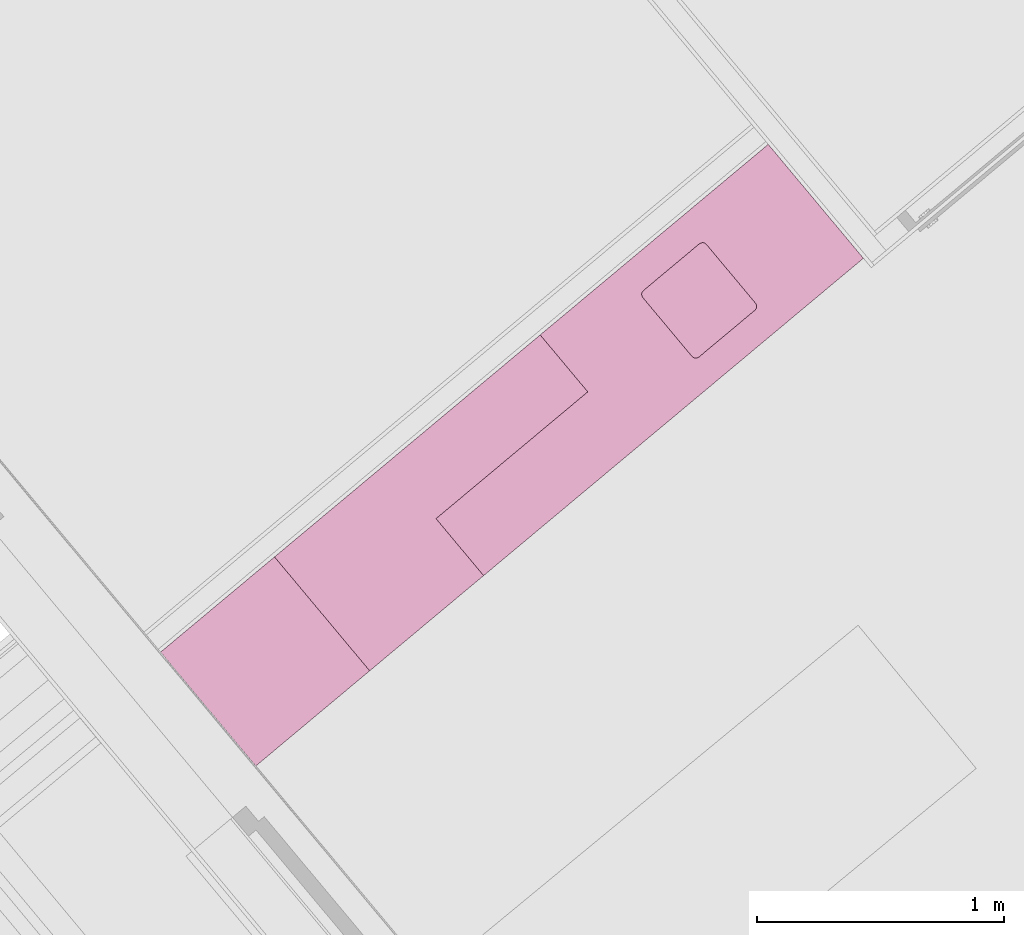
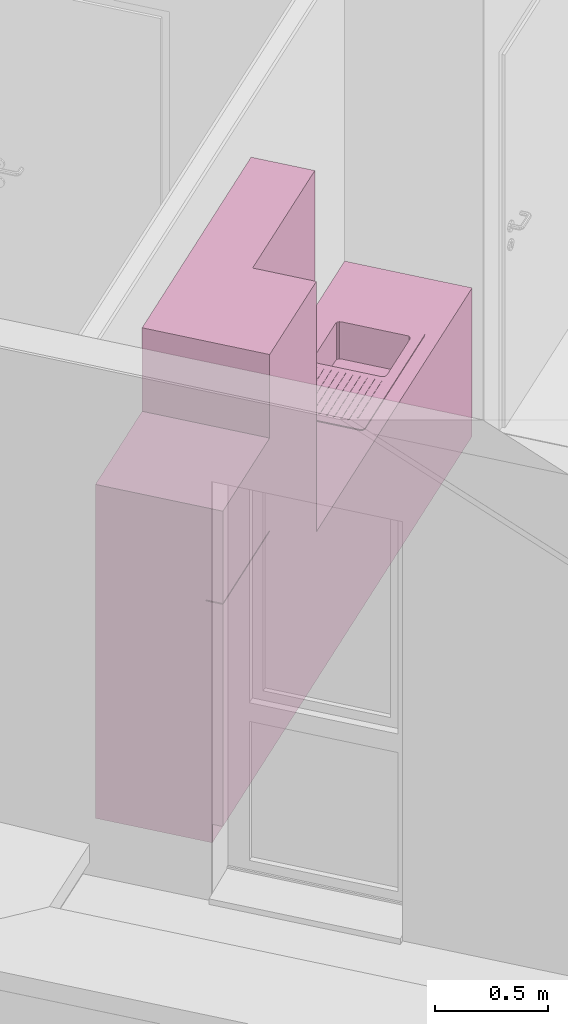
# One storey, part 56 of 58: 1 furniture element.
"""IFC4 building model written with IfcOpenShell, lengths in metres."""

from ifc_helpers import new_model, entity, si_unit, converted_unit, derived_unit, direction, frame, origin_with_axes, place, context, subcontext, project, spatial, polygons, source, transform, mapped, type_object, element, save


model = new_model("IFC4")

# Units and contexts
model_context = context("Model", 3, precision=1e-05, world=origin_with_axes(), true_north=direction((0.0, 1.0)))
body_context = subcontext(model_context, "Body", "Model", "MODEL_VIEW")
ifc_project = project(units=[si_unit("LENGTHUNIT", "METRE"), si_unit("AREAUNIT", "SQUARE_METRE"), si_unit("VOLUMEUNIT", "CUBIC_METRE"), converted_unit("PLANEANGLEUNIT", "DEGREE", entity("IfcPlaneAngleMeasure", 0.0174532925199), si_unit("PLANEANGLEUNIT", "RADIAN"), dimensions=[0, 0, 0, 0, 0, 0, 0]), converted_unit("TIMEUNIT", "Year", entity("IfcTimeMeasure", 31556926.0), si_unit("TIMEUNIT", "SECOND"), dimensions=[0, 0, 1, 0, 0, 0, 0]), si_unit("MASSUNIT", "GRAM", prefix="KILO"), si_unit("THERMODYNAMICTEMPERATUREUNIT", "DEGREE_CELSIUS"), si_unit("LUMINOUSINTENSITYUNIT", "LUMEN"), si_unit("ENERGYUNIT", "JOULE", prefix="MEGA"), derived_unit("THERMALCONDUCTANCEUNIT", [(si_unit("POWERUNIT", "WATT"), 1), (si_unit("LENGTHUNIT", "METRE"), -1), (si_unit("THERMODYNAMICTEMPERATUREUNIT", "KELVIN"), -1)]), derived_unit("SPECIFICHEATCAPACITYUNIT", [(si_unit("ENERGYUNIT", "JOULE"), 1), (si_unit("MASSUNIT", "GRAM", prefix="KILO"), -1), (si_unit("THERMODYNAMICTEMPERATUREUNIT", "KELVIN"), -1)]), derived_unit("MASSDENSITYUNIT", [(si_unit("MASSUNIT", "GRAM", prefix="KILO"), 1), (si_unit("VOLUMEUNIT", "CUBIC_METRE"), -1)])], contexts=[model_context])

# Site, building, storey
site_placement = place(None, frame((-0.00153261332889, -0.00661245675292, 0.0), z_axis=(0.0, 0.0, 1.0), x_axis=(1.0, 0.0, 0.0)))
site = spatial("IfcSite", under=ifc_project, at=site_placement, Name="Site", CompositionType="ELEMENT")
building_placement = place(site_placement, origin_with_axes())
building = spatial("IfcBuilding", under=site, at=building_placement, Name="Building", CompositionType="ELEMENT")
storey_placement = place(building_placement, frame((0.0, 0.0, 5.7), z_axis=(0.0, 0.0, 1.0), x_axis=(1.0, 0.0, 0.0)))
storey = spatial("IfcBuildingStorey", under=building, at=storey_placement, Name="DG1", CompositionType="ELEMENT", Elevation=5.7)

# Furniture
furniture_type = type_object("IfcFurnitureType", Name="Konzeptküche 26", AssemblyPlace="NOTDEFINED", PredefinedType="NOTDEFINED")
shared_shape = source(origin_with_axes(), body_context, "Body", "Tessellation", [
    polygons([(-0.968323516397, 0.0, 0.0), (-0.968323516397, 0.0, 0.1), (-2.96857705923, 0.0, 0.1), (-2.96857705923, 0.0, 0.0), (-0.968323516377, 0.55, 0.0), (-0.968323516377, 0.55, 0.1), (-2.96857705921, 0.550000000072, 0.1), (-2.96857705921, 0.550000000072, 0.0)], [[[1, 2, 3, 4]], [[5, 6, 2, 1]], [[2, 6, 7, 3]], [[4, 3, 7, 8]], [[1, 4, 8, 5]], [[8, 7, 6, 5]]], closed=True),
    polygons([(-0.968323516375, 0.6, 0.85), (-0.968323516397, 0.0, 0.85), (-2.96857705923, 0.0, 0.85), (-2.96857705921, 0.600000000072, 0.85), (-1.79253770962, 0.0550000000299, 0.85), (-1.7925377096, 0.50500000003, 0.85), (-2.5425377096, 0.505000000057, 0.85), (-2.54253770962, 0.0550000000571, 0.85), (-0.968323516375, 0.6, 0.9), (-0.968323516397, 0.0, 0.9), (-2.96857705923, 0.0, 0.9), (-2.96857705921, 0.600000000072, 0.9), (-1.7925377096, 0.50500000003, 0.9), (-1.79253770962, 0.0550000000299, 0.9), (-2.5425377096, 0.505000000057, 0.9), (-2.54253770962, 0.0550000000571, 0.9)], [[[1, 2, 3, 4], [5, 6, 7, 8]], [[2, 1, 9, 10]], [[3, 2, 10, 11]], [[4, 3, 11, 12]], [[1, 4, 12, 9]], [[13, 6, 5, 14]], [[15, 7, 6, 13]], [[16, 8, 7, 15]], [[14, 5, 8, 16]], [[11, 10, 9, 12], [14, 16, 15, 13]]], closed=True),
    polygons([(-0.968323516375, 0.6, 0.1), (-0.968323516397, 0.0, 0.1), (-2.96857705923, 0.0, 0.1), (-2.96857705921, 0.600000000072, 0.1), (-1.79253770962, 0.0550000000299, 0.1), (-1.7925377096, 0.50500000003, 0.1), (-2.5425377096, 0.505000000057, 0.1), (-2.54253770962, 0.0550000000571, 0.1), (-0.968323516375, 0.6, 0.85), (-0.968323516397, 0.0, 0.85), (-2.96857705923, 0.0, 0.85), (-2.96857705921, 0.600000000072, 0.85), (-1.7925377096, 0.50500000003, 0.85), (-1.79253770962, 0.0550000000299, 0.85), (-2.5425377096, 0.505000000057, 0.85), (-2.54253770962, 0.0550000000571, 0.85)], [[[1, 2, 3, 4], [5, 6, 7, 8]], [[2, 1, 9, 10]], [[3, 2, 10, 11]], [[4, 3, 11, 12]], [[1, 4, 12, 9]], [[13, 6, 5, 14]], [[15, 7, 6, 13]], [[16, 8, 7, 15]], [[14, 5, 8, 16]], [[11, 10, 9, 12], [14, 16, 15, 13]]], closed=True),
    polygons([(-0.968323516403, 0.0, 1.5), (-0.968323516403, 0.0, 2.25), (-1.76753770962, 0.0, 2.25), (-1.76753770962, 0.0, 1.5), (-0.968323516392, 0.3, 1.5), (-0.968323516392, 0.3, 2.25), (-1.76753770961, 0.300000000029, 2.25), (-1.76753770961, 0.300000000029, 1.5)], [[[1, 2, 3, 4]], [[5, 6, 2, 1]], [[2, 6, 7, 3]], [[4, 3, 7, 8]], [[1, 4, 8, 5]], [[8, 7, 6, 5]]], closed=True),
    polygons([(-0.368323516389, 0.519999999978, 0.0), (-0.368323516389, 0.519999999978, 0.1), (-0.368323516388, 0.549999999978, 0.1), (-0.368323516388, 0.549999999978, 0.0), (0.231676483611, 0.519999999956, 0.0), (0.231676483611, 0.519999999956, 0.1), (0.231676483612, 0.549999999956, 0.1), (0.231676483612, 0.549999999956, 0.0)], [[[1, 2, 3, 4]], [[5, 6, 2, 1]], [[2, 6, 7, 3]], [[4, 3, 7, 8]], [[1, 4, 8, 5]], [[8, 7, 6, 5]]], closed=True),
    polygons([(-0.368323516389, 0.519999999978, 0.0), (-0.368323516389, 0.519999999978, 1.8), (0.231676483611, 0.519999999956, 1.8), (0.231676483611, 0.519999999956, 0.0), (-0.368323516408, 0.0, 0.0), (-0.368323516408, 0.0, 1.8), (0.231676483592, 0.0, 1.8), (0.231676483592, 0.0, 0.0)], [[[1, 2, 3, 4]], [[5, 6, 2, 1]], [[2, 6, 7, 3]], [[4, 3, 7, 8]], [[1, 4, 8, 5]], [[8, 7, 6, 5]]], closed=True),
    polygons([(-0.368323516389, 0.519899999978, 0.1), (-0.368323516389, 0.519899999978, 1.2975), (-0.368323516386, 0.599999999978, 1.2975), (-0.368323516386, 0.599999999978, 0.1), (0.231676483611, 0.519899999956, 0.1), (0.231676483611, 0.519899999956, 1.2975), (0.231676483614, 0.599999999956, 1.2975), (0.231676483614, 0.599999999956, 0.1)], [[[1, 2, 3, 4]], [[5, 6, 2, 1]], [[2, 6, 7, 3]], [[4, 3, 7, 8]], [[1, 4, 8, 5]], [[8, 7, 6, 5]]], closed=True),
    polygons([(-0.368323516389, 0.519899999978, 1.3025), (-0.368323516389, 0.519899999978, 1.8), (-0.368323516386, 0.599999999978, 1.8), (-0.368323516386, 0.599999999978, 1.3025), (0.231676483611, 0.519899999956, 1.3025), (0.231676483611, 0.519899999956, 1.8), (0.231676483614, 0.599999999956, 1.8), (0.231676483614, 0.599999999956, 1.3025)], [[[1, 2, 3, 4]], [[5, 6, 2, 1]], [[2, 6, 7, 3]], [[4, 3, 7, 8]], [[1, 4, 8, 5]], [[8, 7, 6, 5]]], closed=True),
    polygons([(-2.4975377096, 0.480000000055, 0.705), (-2.4975377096, 0.480000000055, 0.9), (-2.2025377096, 0.480000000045, 0.9), (-2.2025377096, 0.480000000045, 0.705), (-2.50519137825, 0.478477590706, 0.705), (-2.50519137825, 0.478477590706, 0.9), (-2.19488404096, 0.478477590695, 0.9), (-2.19488404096, 0.478477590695, 0.705), (-2.18839557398, 0.474142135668, 0.705), (-2.18406011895, 0.467653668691, 0.705), (-2.18253770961, 0.460000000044, 0.705), (-2.18253770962, 0.150000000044, 0.705), (-2.18406011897, 0.142346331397, 0.705), (-2.18839557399, 0.13585786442, 0.705), (-2.19488404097, 0.131522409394, 0.705), (-2.20253770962, 0.130000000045, 0.705), (-2.49753770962, 0.130000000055, 0.705), (-2.50519137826, 0.131522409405, 0.705), (-2.51167984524, 0.135857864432, 0.705), (-2.51601530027, 0.142346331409, 0.705), (-2.51753770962, 0.150000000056, 0.705), (-2.51753770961, 0.460000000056, 0.705), (-2.51601530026, 0.467653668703, 0.705), (-2.51167984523, 0.47414213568, 0.705), (-2.51167984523, 0.47414213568, 0.9), (-2.18839557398, 0.474142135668, 0.9), (-2.18406011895, 0.467653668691, 0.9), (-2.18253770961, 0.460000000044, 0.9), (-2.18253770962, 0.150000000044, 0.9), (-2.18406011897, 0.142346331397, 0.9), (-2.18839557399, 0.13585786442, 0.9), (-2.19488404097, 0.131522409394, 0.9), (-2.20253770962, 0.130000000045, 0.9), (-2.49753770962, 0.130000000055, 0.9), (-2.50519137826, 0.131522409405, 0.9), (-2.51167984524, 0.135857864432, 0.9), (-2.51601530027, 0.142346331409, 0.9), (-2.51753770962, 0.150000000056, 0.9), (-2.51753770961, 0.460000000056, 0.9), (-2.51601530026, 0.467653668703, 0.9)], [[[1, 2, 3, 4]], [[5, 6, 2, 1]], [[4, 3, 7, 8]], [[1, 4, 8, 9, 10, 11, 12, 13, 14, 15, 16, 17, 18, 19, 20, 21, 22, 23, 24, 5]], [[24, 25, 6, 5]], [[8, 7, 26, 9]], [[9, 26, 27, 10]], [[10, 27, 28, 11]], [[11, 28, 29, 12]], [[12, 29, 30, 13]], [[13, 30, 31, 14]], [[14, 31, 32, 15]], [[15, 32, 33, 16]], [[16, 33, 34, 17]], [[17, 34, 35, 18]], [[18, 35, 36, 19]], [[19, 36, 37, 20]], [[20, 37, 38, 21]], [[21, 38, 39, 22]], [[22, 39, 40, 23]], [[23, 40, 25, 24]]], closed=False),
    polygons([(-2.5475377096, 0.530000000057, 0.9), (-2.5475377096, 0.530000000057, 0.905), (-1.7875377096, 0.53000000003, 0.905), (-1.7875377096, 0.53000000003, 0.9), (-2.55519137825, 0.528477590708, 0.9), (-2.55519137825, 0.528477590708, 0.905), (-2.56167984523, 0.524142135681, 0.905), (-2.56601530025, 0.517653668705, 0.905), (-2.5675377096, 0.510000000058, 0.905), (-2.56753770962, 0.050000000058, 0.905), (-2.56601530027, 0.0423463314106, 0.905), (-2.56167984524, 0.035857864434, 0.905), (-2.55519137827, 0.0315224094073, 0.905), (-2.54753770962, 0.0300000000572, 0.905), (-1.78753770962, 0.0300000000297, 0.905), (-1.77988404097, 0.0315224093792, 0.905), (-1.773395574, 0.0358578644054, 0.905), (-1.76906011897, 0.0423463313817, 0.905), (-1.76753770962, 0.050000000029, 0.905), (-1.7675377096, 0.510000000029, 0.905), (-1.76906011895, 0.517653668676, 0.905), (-1.77339557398, 0.524142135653, 0.905), (-1.77988404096, 0.52847759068, 0.905), (-2.4975377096, 0.480000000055, 0.905), (-2.2025377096, 0.480000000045, 0.905), (-2.19488404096, 0.478477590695, 0.905), (-2.18839557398, 0.474142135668, 0.905), (-2.18406011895, 0.467653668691, 0.905), (-2.18253770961, 0.460000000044, 0.905), (-2.18253770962, 0.150000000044, 0.905), (-2.18406011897, 0.142346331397, 0.905), (-2.18839557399, 0.13585786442, 0.905), (-2.19488404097, 0.131522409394, 0.905), (-2.20253770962, 0.130000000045, 0.905), (-2.49753770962, 0.130000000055, 0.905), (-2.50519137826, 0.131522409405, 0.905), (-2.51167984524, 0.135857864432, 0.905), (-2.51601530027, 0.142346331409, 0.905), (-2.51753770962, 0.150000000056, 0.905), (-2.51753770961, 0.460000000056, 0.905), (-2.51601530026, 0.467653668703, 0.905), (-2.51167984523, 0.47414213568, 0.905), (-2.50519137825, 0.478477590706, 0.905), (-1.77988404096, 0.52847759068, 0.9), (-1.77339557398, 0.524142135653, 0.9), (-1.76906011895, 0.517653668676, 0.9), (-1.7675377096, 0.510000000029, 0.9), (-1.76753770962, 0.050000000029, 0.9), (-1.76906011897, 0.0423463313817, 0.9), (-1.773395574, 0.0358578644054, 0.9), (-1.77988404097, 0.0315224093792, 0.9), (-1.78753770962, 0.0300000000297, 0.9), (-2.54753770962, 0.0300000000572, 0.9), (-2.55519137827, 0.0315224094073, 0.9), (-2.56167984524, 0.035857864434, 0.9), (-2.56601530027, 0.0423463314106, 0.9), (-2.56753770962, 0.050000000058, 0.9), (-2.5675377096, 0.510000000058, 0.9), (-2.56601530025, 0.517653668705, 0.9), (-2.56167984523, 0.524142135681, 0.9), (-2.4975377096, 0.480000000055, 0.9), (-2.50519137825, 0.478477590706, 0.9), (-2.51167984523, 0.47414213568, 0.9), (-2.51601530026, 0.467653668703, 0.9), (-2.51753770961, 0.460000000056, 0.9), (-2.51753770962, 0.150000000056, 0.9), (-2.51601530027, 0.142346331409, 0.9), (-2.51167984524, 0.135857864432, 0.9), (-2.50519137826, 0.131522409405, 0.9), (-2.49753770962, 0.130000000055, 0.9), (-2.20253770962, 0.130000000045, 0.9), (-2.19488404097, 0.131522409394, 0.9), (-2.18839557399, 0.13585786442, 0.9), (-2.18406011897, 0.142346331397, 0.9), (-2.18253770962, 0.150000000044, 0.9), (-2.18253770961, 0.460000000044, 0.9), (-2.18406011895, 0.467653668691, 0.9), (-2.18839557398, 0.474142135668, 0.9), (-2.19488404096, 0.478477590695, 0.9), (-2.2025377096, 0.480000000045, 0.9)], [[[1, 2, 3, 4]], [[5, 6, 2, 1]], [[2, 6, 7, 8, 9, 10, 11, 12, 13, 14, 15, 16, 17, 18, 19, 20, 21, 22, 23, 3], [24, 25, 26, 27, 28, 29, 30, 31, 32, 33, 34, 35, 36, 37, 38, 39, 40, 41, 42, 43]], [[4, 3, 23, 44]], [[1, 4, 44, 45, 46, 47, 48, 49, 50, 51, 52, 53, 54, 55, 56, 57, 58, 59, 60, 5], [61, 62, 63, 64, 65, 66, 67, 68, 69, 70, 71, 72, 73, 74, 75, 76, 77, 78, 79, 80]], [[60, 7, 6, 5]], [[59, 8, 7, 60]], [[58, 9, 8, 59]], [[57, 10, 9, 58]], [[56, 11, 10, 57]], [[55, 12, 11, 56]], [[54, 13, 12, 55]], [[53, 14, 13, 54]], [[52, 15, 14, 53]], [[51, 16, 15, 52]], [[50, 17, 16, 51]], [[49, 18, 17, 50]], [[48, 19, 18, 49]], [[47, 20, 19, 48]], [[46, 21, 20, 47]], [[45, 22, 21, 46]], [[44, 23, 22, 45]], [[80, 25, 24, 61]], [[79, 26, 25, 80]], [[78, 27, 26, 79]], [[77, 28, 27, 78]], [[76, 29, 28, 77]], [[75, 30, 29, 76]], [[74, 31, 30, 75]], [[73, 32, 31, 74]], [[72, 33, 32, 73]], [[71, 34, 33, 72]], [[70, 35, 34, 71]], [[69, 36, 35, 70]], [[68, 37, 36, 69]], [[67, 38, 37, 68]], [[66, 39, 38, 67]], [[65, 40, 39, 66]], [[64, 41, 40, 65]], [[63, 42, 41, 64]], [[62, 43, 42, 63]], [[61, 24, 43, 62]]], closed=True),
    polygons([(-2.1525377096, 0.475000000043, 0.905), (-2.1525377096, 0.475000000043, 0.907), (-1.8475377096, 0.475000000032, 0.907), (-1.8475377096, 0.475000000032, 0.905), (-2.1525377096, 0.470000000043, 0.905), (-2.1525377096, 0.470000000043, 0.907), (-1.8475377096, 0.470000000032, 0.907), (-1.8475377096, 0.470000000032, 0.905)], [[[1, 2, 3, 4]], [[5, 6, 2, 1]], [[2, 6, 7, 3]], [[4, 3, 7, 8]], [[1, 4, 8, 5]], [[8, 7, 6, 5]]], closed=True),
    polygons([(-2.15253770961, 0.441000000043, 0.905), (-2.15253770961, 0.441000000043, 0.907), (-1.81753770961, 0.441000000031, 0.907), (-1.81753770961, 0.441000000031, 0.905), (-2.15253770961, 0.436000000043, 0.905), (-2.15253770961, 0.436000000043, 0.907), (-1.81753770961, 0.436000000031, 0.907), (-1.81753770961, 0.436000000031, 0.905)], [[[1, 2, 3, 4]], [[5, 6, 2, 1]], [[2, 6, 7, 3]], [[4, 3, 7, 8]], [[1, 4, 8, 5]], [[8, 7, 6, 5]]], closed=True),
    polygons([(-2.15253770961, 0.407000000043, 0.905), (-2.15253770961, 0.407000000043, 0.907), (-1.81753770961, 0.407000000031, 0.907), (-1.81753770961, 0.407000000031, 0.905), (-2.15253770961, 0.402000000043, 0.905), (-2.15253770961, 0.402000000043, 0.907), (-1.81753770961, 0.402000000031, 0.907), (-1.81753770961, 0.402000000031, 0.905)], [[[1, 2, 3, 4]], [[5, 6, 2, 1]], [[2, 6, 7, 3]], [[4, 3, 7, 8]], [[1, 4, 8, 5]], [[8, 7, 6, 5]]], closed=True),
    polygons([(-2.15253770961, 0.373000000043, 0.905), (-2.15253770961, 0.373000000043, 0.907), (-1.81753770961, 0.373000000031, 0.907), (-1.81753770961, 0.373000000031, 0.905), (-2.15253770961, 0.368000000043, 0.905), (-2.15253770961, 0.368000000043, 0.907), (-1.81753770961, 0.368000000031, 0.907), (-1.81753770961, 0.368000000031, 0.905)], [[[1, 2, 3, 4]], [[5, 6, 2, 1]], [[2, 6, 7, 3]], [[4, 3, 7, 8]], [[1, 4, 8, 5]], [[8, 7, 6, 5]]], closed=True),
    polygons([(-2.15253770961, 0.339000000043, 0.905), (-2.15253770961, 0.339000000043, 0.907), (-1.81753770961, 0.339000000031, 0.907), (-1.81753770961, 0.339000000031, 0.905), (-2.15253770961, 0.334000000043, 0.905), (-2.15253770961, 0.334000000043, 0.907), (-1.81753770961, 0.334000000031, 0.907), (-1.81753770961, 0.334000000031, 0.905)], [[[1, 2, 3, 4]], [[5, 6, 2, 1]], [[2, 6, 7, 3]], [[4, 3, 7, 8]], [[1, 4, 8, 5]], [[8, 7, 6, 5]]], closed=True),
    polygons([(-2.15253770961, 0.305000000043, 0.905), (-2.15253770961, 0.305000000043, 0.907), (-1.81753770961, 0.305000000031, 0.907), (-1.81753770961, 0.305000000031, 0.905), (-2.15253770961, 0.300000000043, 0.905), (-2.15253770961, 0.300000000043, 0.907), (-1.81753770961, 0.300000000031, 0.907), (-1.81753770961, 0.300000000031, 0.905)], [[[1, 2, 3, 4]], [[5, 6, 2, 1]], [[2, 6, 7, 3]], [[4, 3, 7, 8]], [[1, 4, 8, 5]], [[8, 7, 6, 5]]], closed=True),
    polygons([(-2.15253770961, 0.271000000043, 0.905), (-2.15253770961, 0.271000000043, 0.907), (-1.81753770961, 0.271000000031, 0.907), (-1.81753770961, 0.271000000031, 0.905), (-2.15253770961, 0.266000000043, 0.905), (-2.15253770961, 0.266000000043, 0.907), (-1.81753770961, 0.266000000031, 0.907), (-1.81753770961, 0.266000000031, 0.905)], [[[1, 2, 3, 4]], [[5, 6, 2, 1]], [[2, 6, 7, 3]], [[4, 3, 7, 8]], [[1, 4, 8, 5]], [[8, 7, 6, 5]]], closed=True),
    polygons([(-2.15253770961, 0.237000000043, 0.905), (-2.15253770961, 0.237000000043, 0.907), (-1.81753770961, 0.237000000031, 0.907), (-1.81753770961, 0.237000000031, 0.905), (-2.15253770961, 0.232000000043, 0.905), (-2.15253770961, 0.232000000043, 0.907), (-1.81753770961, 0.232000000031, 0.907), (-1.81753770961, 0.232000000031, 0.905)], [[[1, 2, 3, 4]], [[5, 6, 2, 1]], [[2, 6, 7, 3]], [[4, 3, 7, 8]], [[1, 4, 8, 5]], [[8, 7, 6, 5]]], closed=True),
    polygons([(-2.15253770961, 0.203000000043, 0.905), (-2.15253770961, 0.203000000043, 0.907), (-1.81753770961, 0.203000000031, 0.907), (-1.81753770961, 0.203000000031, 0.905), (-2.15253770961, 0.198000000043, 0.905), (-2.15253770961, 0.198000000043, 0.907), (-1.81753770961, 0.198000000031, 0.907), (-1.81753770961, 0.198000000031, 0.905)], [[[1, 2, 3, 4]], [[5, 6, 2, 1]], [[2, 6, 7, 3]], [[4, 3, 7, 8]], [[1, 4, 8, 5]], [[8, 7, 6, 5]]], closed=True),
    polygons([(-2.15253770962, 0.169000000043, 0.905), (-2.15253770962, 0.169000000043, 0.907), (-1.81753770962, 0.169000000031, 0.907), (-1.81753770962, 0.169000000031, 0.905), (-2.15253770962, 0.164000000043, 0.905), (-2.15253770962, 0.164000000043, 0.907), (-1.81753770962, 0.164000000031, 0.907), (-1.81753770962, 0.164000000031, 0.905)], [[[1, 2, 3, 4]], [[5, 6, 2, 1]], [[2, 6, 7, 3]], [[4, 3, 7, 8]], [[1, 4, 8, 5]], [[8, 7, 6, 5]]], closed=True),
    polygons([(-2.15253770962, 0.135000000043, 0.905), (-2.15253770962, 0.135000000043, 0.907), (-1.84753770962, 0.135000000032, 0.907), (-1.84753770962, 0.135000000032, 0.905), (-2.15253770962, 0.130000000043, 0.905), (-2.15253770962, 0.130000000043, 0.907), (-1.84753770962, 0.130000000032, 0.907), (-1.84753770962, 0.130000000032, 0.905)], [[[1, 2, 3, 4]], [[5, 6, 2, 1]], [[2, 6, 7, 3]], [[4, 3, 7, 8]], [[1, 4, 8, 5]], [[8, 7, 6, 5]]], closed=True),
    polygons([(-0.968323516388, 0.55, 0.0), (-0.968323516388, 0.55, 0.1), (-0.368323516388, 0.549999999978, 0.1), (-0.368323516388, 0.549999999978, 0.0), (-0.968323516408, 0.0, 0.0), (-0.968323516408, 0.0, 0.1), (-0.368323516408, 0.0, 0.1), (-0.368323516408, 0.0, 0.0)], [[[1, 2, 3, 4]], [[5, 6, 2, 1]], [[2, 6, 7, 3]], [[4, 3, 7, 8]], [[1, 4, 8, 5]], [[8, 7, 6, 5]]], closed=True),
    polygons([(-0.968323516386, 0.6, 0.1), (-0.968323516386, 0.6, 2.25), (-0.368323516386, 0.599999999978, 2.25), (-0.368323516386, 0.599999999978, 0.1), (-0.968323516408, 0.0, 0.1), (-0.968323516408, 0.0, 2.25), (-0.368323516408, 0.0, 2.25), (-0.368323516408, 0.0, 0.1)], [[[1, 2, 3, 4]], [[5, 6, 2, 1]], [[2, 6, 7, 3]], [[4, 3, 7, 8]], [[1, 4, 8, 5]], [[8, 7, 6, 5]]], closed=True),
])
furniture_placement = place(storey_placement, frame((-4.71054470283, 15.2805381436, 0.22), z_axis=(0.0, 0.0, 1.0), x_axis=(-0.767365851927, -0.641209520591, 0.0)))
element("IfcFurniture", 1, at=furniture_placement, inside=storey, type_object=furniture_type, Name="Objekt-0002", PredefinedType="NOTDEFINED", context=body_context, shape_type="MappedRepresentation", body=[
    mapped(shared_shape, transform((0.0, 0.0, 0.0))),
])

save(model, "model.ifc")
